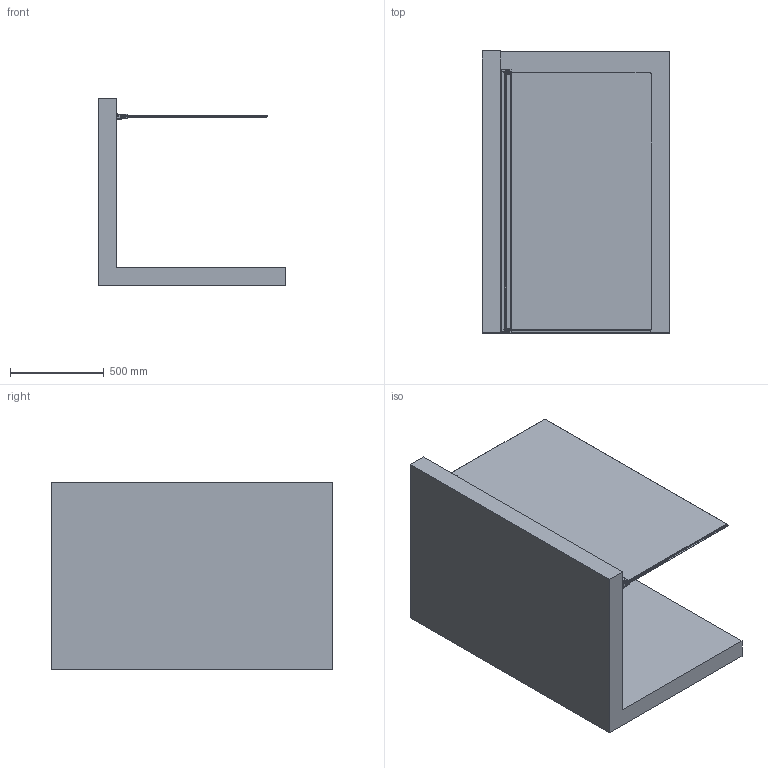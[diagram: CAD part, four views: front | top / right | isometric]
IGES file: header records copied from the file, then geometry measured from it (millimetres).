
Start section: SolidWorks IGES file using analytic representation for surfaces
Global section: file name: C:\Users\Administrator\Desktop\楷苤眢\9H.IGS,15; native system: HSolidWorks 2014; preprocessor: SolidWorks 2014; author: Administrator; date: 190918.162101; units: millimetre
Bounding box: 1000 x 1500.1 x 1000 mm (x, y, z)
Surface area: 9647486.5 mm2 (no closed solid volume)
Topology: 0 solids, 0 shells, 3234 faces, 24912 edges, 24872 vertices
Faces by surface type: bspline 1733, revolution 1501
